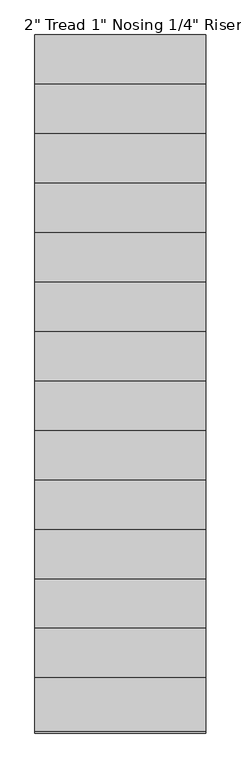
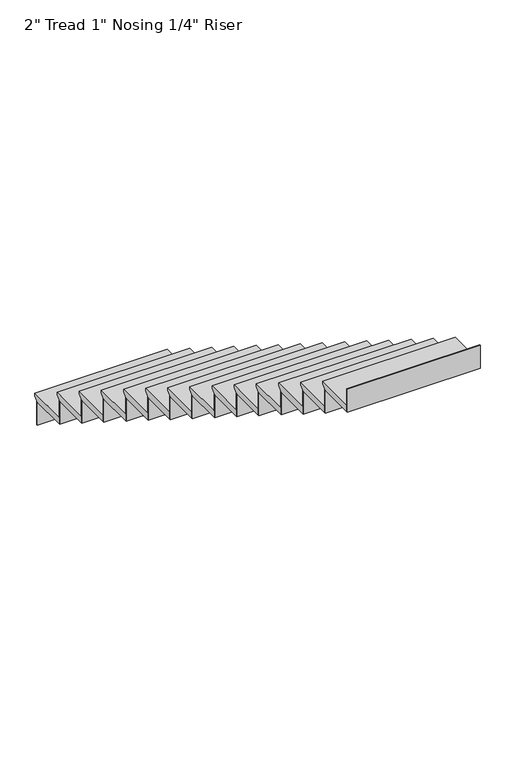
"""IFC4 building model written with IfcOpenShell, lengths in millimetres: stair flight geometry."""

from ifc_helpers import new_model, si_unit, frame, origin, place, context, project, spatial, polyline, outline, extrude, source, transform, mapped, element, save


def stair_flight_e12d16f7(model_context):
    return source(origin(), model_context, "Body", "SweptSolid", [
        extrude(outline(polyline([(3241.8563085, 882.3157895), (3546.6563085, 882.3157895), (3546.6563085, 863.2657895), (3521.2563085, 837.8657895), (3521.2563085, 831.5157895), (3241.8563085, 831.5157895), (3241.8563085, 882.3157895)])), frame((4658.4030789, 0.0, 0.0), z_axis=(1.0, 0.0, 0.0), x_axis=(0.0, 1.0, 0.0)), (0.0, 0.0, 1.0), 965.2),
        extrude(outline(polyline([(4658.4030789, 3514.9063085), (4658.4030789, 3521.2563085), (5623.6030789, 3521.2563085), (5623.6030789, 3514.9063085), (4658.4030789, 3514.9063085)])), frame((0.0, 0.0, 655.0526316), z_axis=(0.0, 0.0, 1.0), x_axis=(1.0, 0.0, 0.0)), (0.0, 0.0, 1.0), 176.4631579),
        extrude(outline(polyline([(4658.4030789, 3235.5063085), (4658.4030789, 3241.8563085), (5623.6030789, 3241.8563085), (5623.6030789, 3235.5063085), (4658.4030789, 3235.5063085)])), frame((0.0, 0.0, 831.5157895), z_axis=(0.0, 0.0, 1.0), x_axis=(1.0, 0.0, 0.0)), (0.0, 0.0, 1.0), 176.4631579),
        extrude(outline(polyline([(2962.4563085, 1058.7789474), (3267.2563085, 1058.7789474), (3267.2563085, 1039.7289474), (3241.8563085, 1014.3289474), (3241.8563085, 1007.9789474), (2962.4563085, 1007.9789474), (2962.4563085, 1058.7789474)])), frame((4658.4030789, 0.0, 0.0), z_axis=(1.0, 0.0, 0.0), x_axis=(0.0, 1.0, 0.0)), (0.0, 0.0, 1.0), 965.2),
        extrude(outline(polyline([(4658.4030789, 2956.1063085), (4658.4030789, 2962.4563085), (5623.6030789, 2962.4563085), (5623.6030789, 2956.1063085), (4658.4030789, 2956.1063085)])), frame((0.0, 0.0, 1007.9789474), z_axis=(0.0, 0.0, 1.0), x_axis=(1.0, 0.0, 0.0)), (0.0, 0.0, 1.0), 176.4631579),
        extrude(outline(polyline([(2683.0563085, 1235.2421053), (2987.8563085, 1235.2421053), (2987.8563085, 1216.1921053), (2962.4563085, 1190.7921053), (2962.4563085, 1184.4421053), (2683.0563085, 1184.4421053), (2683.0563085, 1235.2421053)])), frame((4658.4030789, 0.0, 0.0), z_axis=(1.0, 0.0, 0.0), x_axis=(0.0, 1.0, 0.0)), (0.0, 0.0, 1.0), 965.2),
        extrude(outline(polyline([(4658.4030789, 2676.7063085), (4658.4030789, 2683.0563085), (5623.6030789, 2683.0563085), (5623.6030789, 2676.7063085), (4658.4030789, 2676.7063085)])), frame((0.0, 0.0, 1184.4421053), z_axis=(0.0, 0.0, 1.0), x_axis=(1.0, 0.0, 0.0)), (0.0, 0.0, 1.0), 176.4631579),
        extrude(outline(polyline([(2403.6563085, 1411.7052632), (2708.4563085, 1411.7052632), (2708.4563085, 1392.6552632), (2683.0563085, 1367.2552632), (2683.0563085, 1360.9052632), (2403.6563085, 1360.9052632), (2403.6563085, 1411.7052632)])), frame((4658.4030789, 0.0, 0.0), z_axis=(1.0, 0.0, 0.0), x_axis=(0.0, 1.0, 0.0)), (0.0, 0.0, 1.0), 965.2),
        extrude(outline(polyline([(4658.4030789, 2397.3063085), (4658.4030789, 2403.6563085), (5623.6030789, 2403.6563085), (5623.6030789, 2397.3063085), (4658.4030789, 2397.3063085)])), frame((0.0, 0.0, 1360.9052632), z_axis=(0.0, 0.0, 1.0), x_axis=(1.0, 0.0, 0.0)), (0.0, 0.0, 1.0), 176.4631579),
        extrude(outline(polyline([(2124.2563085, 1588.1684211), (2429.0563085, 1588.1684211), (2429.0563085, 1569.1184211), (2403.6563085, 1543.7184211), (2403.6563085, 1537.3684211), (2124.2563085, 1537.3684211), (2124.2563085, 1588.1684211)])), frame((4658.4030789, 0.0, 0.0), z_axis=(1.0, 0.0, 0.0), x_axis=(0.0, 1.0, 0.0)), (0.0, 0.0, 1.0), 965.2),
        extrude(outline(polyline([(4658.4030789, 2117.9063085), (4658.4030789, 2124.2563085), (5623.6030789, 2124.2563085), (5623.6030789, 2117.9063085), (4658.4030789, 2117.9063085)])), frame((0.0, 0.0, 1537.3684211), z_axis=(0.0, 0.0, 1.0), x_axis=(1.0, 0.0, 0.0)), (0.0, 0.0, 1.0), 176.4631579),
        extrude(outline(polyline([(1844.8563085, 1764.6315789), (2149.6563085, 1764.6315789), (2149.6563085, 1745.5815789), (2124.2563085, 1720.1815789), (2124.2563085, 1713.8315789), (1844.8563085, 1713.8315789), (1844.8563085, 1764.6315789)])), frame((4658.4030789, 0.0, 0.0), z_axis=(1.0, 0.0, 0.0), x_axis=(0.0, 1.0, 0.0)), (0.0, 0.0, 1.0), 965.2),
        extrude(outline(polyline([(4658.4030789, 1838.5063085), (4658.4030789, 1844.8563085), (5623.6030789, 1844.8563085), (5623.6030789, 1838.5063085), (4658.4030789, 1838.5063085)])), frame((0.0, 0.0, 1713.8315789), z_axis=(0.0, 0.0, 1.0), x_axis=(1.0, 0.0, 0.0)), (0.0, 0.0, 1.0), 176.4631579),
        extrude(outline(polyline([(1565.4563085, 1941.0947368), (1870.2563085, 1941.0947368), (1870.2563085, 1922.0447368), (1844.8563085, 1896.6447368), (1844.8563085, 1890.2947368), (1565.4563085, 1890.2947368), (1565.4563085, 1941.0947368)])), frame((4658.4030789, 0.0, 0.0), z_axis=(1.0, 0.0, 0.0), x_axis=(0.0, 1.0, 0.0)), (0.0, 0.0, 1.0), 965.2),
        extrude(outline(polyline([(4658.4030789, 1559.1063085), (4658.4030789, 1565.4563085), (5623.6030789, 1565.4563085), (5623.6030789, 1559.1063085), (4658.4030789, 1559.1063085)])), frame((0.0, 0.0, 1890.2947368), z_axis=(0.0, 0.0, 1.0), x_axis=(1.0, 0.0, 0.0)), (0.0, 0.0, 1.0), 176.4631579),
        extrude(outline(polyline([(1286.0563085, 2117.5578947), (1590.8563085, 2117.5578947), (1590.8563085, 2098.5078947), (1565.4563085, 2073.1078947), (1565.4563085, 2066.7578947), (1286.0563085, 2066.7578947), (1286.0563085, 2117.5578947)])), frame((4658.4030789, 0.0, 0.0), z_axis=(1.0, 0.0, 0.0), x_axis=(0.0, 1.0, 0.0)), (0.0, 0.0, 1.0), 965.2),
        extrude(outline(polyline([(4658.4030789, 1279.7063085), (4658.4030789, 1286.0563085), (5623.6030789, 1286.0563085), (5623.6030789, 1279.7063085), (4658.4030789, 1279.7063085)])), frame((0.0, 0.0, 2066.7578947), z_axis=(0.0, 0.0, 1.0), x_axis=(1.0, 0.0, 0.0)), (0.0, 0.0, 1.0), 176.4631579),
        extrude(outline(polyline([(1006.6563085, 2294.0210526), (1311.4563085, 2294.0210526), (1311.4563085, 2274.9710526), (1286.0563085, 2249.5710526), (1286.0563085, 2243.2210526), (1006.6563085, 2243.2210526), (1006.6563085, 2294.0210526)])), frame((4658.4030789, 0.0, 0.0), z_axis=(1.0, 0.0, 0.0), x_axis=(0.0, 1.0, 0.0)), (0.0, 0.0, 1.0), 965.2),
        extrude(outline(polyline([(4658.4030789, 1000.3063085), (4658.4030789, 1006.6563085), (5623.6030789, 1006.6563085), (5623.6030789, 1000.3063085), (4658.4030789, 1000.3063085)])), frame((0.0, 0.0, 2243.2210526), z_axis=(0.0, 0.0, 1.0), x_axis=(1.0, 0.0, 0.0)), (0.0, 0.0, 1.0), 176.4631579),
        extrude(outline(polyline([(727.2563085, 2470.4842105), (1032.0563085, 2470.4842105), (1032.0563085, 2451.4342105), (1006.6563085, 2426.0342105), (1006.6563085, 2419.6842105), (727.2563085, 2419.6842105), (727.2563085, 2470.4842105)])), frame((4658.4030789, 0.0, 0.0), z_axis=(1.0, 0.0, 0.0), x_axis=(0.0, 1.0, 0.0)), (0.0, 0.0, 1.0), 965.2),
        extrude(outline(polyline([(4658.4030789, 720.9063085), (4658.4030789, 727.2563085), (5623.6030789, 727.2563085), (5623.6030789, 720.9063085), (4658.4030789, 720.9063085)])), frame((0.0, 0.0, 2419.6842105), z_axis=(0.0, 0.0, 1.0), x_axis=(1.0, 0.0, 0.0)), (0.0, 0.0, 1.0), 176.4631579),
        extrude(outline(polyline([(447.8563085, 2646.9473684), (752.6563085, 2646.9473684), (752.6563085, 2627.8973684), (727.2563085, 2602.4973684), (727.2563085, 2596.1473684), (447.8563085, 2596.1473684), (447.8563085, 2646.9473684)])), frame((4658.4030789, 0.0, 0.0), z_axis=(1.0, 0.0, 0.0), x_axis=(0.0, 1.0, 0.0)), (0.0, 0.0, 1.0), 965.2),
        extrude(outline(polyline([(4658.4030789, 441.5063085), (4658.4030789, 447.8563085), (5623.6030789, 447.8563085), (5623.6030789, 441.5063085), (4658.4030789, 441.5063085)])), frame((0.0, 0.0, 2596.1473684), z_axis=(0.0, 0.0, 1.0), x_axis=(1.0, 0.0, 0.0)), (0.0, 0.0, 1.0), 176.4631579),
        extrude(outline(polyline([(168.4563085, 2823.4105263), (473.2563085, 2823.4105263), (473.2563085, 2804.3605263), (447.8563085, 2778.9605263), (447.8563085, 2772.6105263), (168.4563085, 2772.6105263), (168.4563085, 2823.4105263)])), frame((4658.4030789, 0.0, 0.0), z_axis=(1.0, 0.0, 0.0), x_axis=(0.0, 1.0, 0.0)), (0.0, 0.0, 1.0), 965.2),
        extrude(outline(polyline([(4658.4030789, 162.1063085), (4658.4030789, 168.4563085), (5623.6030789, 168.4563085), (5623.6030789, 162.1063085), (4658.4030789, 162.1063085)])), frame((0.0, 0.0, 2772.6105263), z_axis=(0.0, 0.0, 1.0), x_axis=(1.0, 0.0, 0.0)), (0.0, 0.0, 1.0), 176.4631579),
        extrude(outline(polyline([(-110.9436915, 2999.8736842), (193.8563085, 2999.8736842), (193.8563085, 2980.8236842), (168.4563085, 2955.4236842), (168.4563085, 2949.0736842), (-110.9436915, 2949.0736842), (-110.9436915, 2999.8736842)])), frame((4658.4030789, 0.0, 0.0), z_axis=(1.0, 0.0, 0.0), x_axis=(0.0, 1.0, 0.0)), (0.0, 0.0, 1.0), 965.2),
        extrude(outline(polyline([(4658.4030789, -117.2936915), (4658.4030789, -110.9436915), (5623.6030789, -110.9436915), (5623.6030789, -117.2936915), (4658.4030789, -117.2936915)])), frame((0.0, 0.0, 2949.0736842), z_axis=(0.0, 0.0, 1.0), x_axis=(1.0, 0.0, 0.0)), (0.0, 0.0, 1.0), 176.4631579),
        extrude(outline(polyline([(4658.4030789, -396.6936915), (4658.4030789, -390.3436915), (5623.6030789, -390.3436915), (5623.6030789, -396.6936915), (4658.4030789, -396.6936915)])), frame((0.0, 0.0, 3125.5368421), z_axis=(0.0, 0.0, 1.0), x_axis=(1.0, 0.0, 0.0)), (0.0, 0.0, 1.0), 176.4631579),
        extrude(outline(polyline([(-390.3436915, 3176.3368421), (-85.5436915, 3176.3368421), (-85.5436915, 3157.2868421), (-110.9436915, 3131.8868421), (-110.9436915, 3125.5368421), (-390.3436915, 3125.5368421), (-390.3436915, 3176.3368421)])), frame((4658.4030789, 0.0, 0.0), z_axis=(1.0, 0.0, 0.0), x_axis=(0.0, 1.0, 0.0)), (0.0, 0.0, 1.0), 965.2),
    ])


if __name__ == "__main__":
    model = new_model("IFC4")
    model_context = context("Model", 3, world=origin())
    ifc_project = project(units=[si_unit("LENGTHUNIT", "METRE", prefix="MILLI")], contexts=[model_context])
    site = spatial("IfcSite", under=ifc_project)
    building = spatial("IfcBuilding", under=site)
    placement = place(None, origin())
    stair_flight_shape = stair_flight_e12d16f7(model_context)
    element("IfcStairFlight", 1, ObjectType="2\" Tread 1\" Nosing 1/4\" Riser", at=placement, inside=building, context=model_context, shape_type="MappedRepresentation", body=[
        mapped(stair_flight_shape, transform((0.0, 0.0, 0.0), x_axis=(1.0, 0.0, 0.0), y_axis=(0.0, 1.0, 0.0), z_axis=(0.0, 0.0, 1.0))),
    ])
    save(model, "model.ifc")
